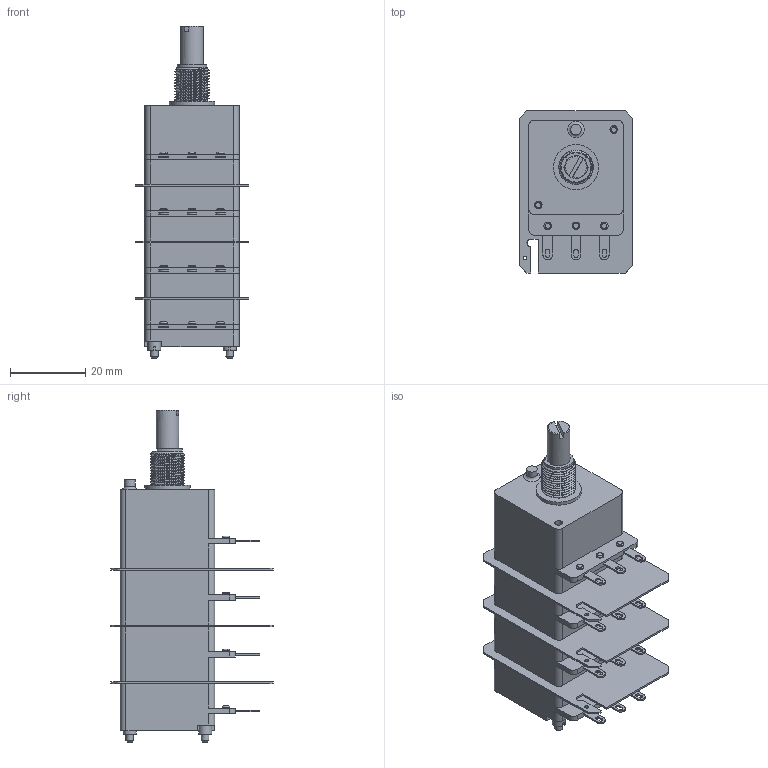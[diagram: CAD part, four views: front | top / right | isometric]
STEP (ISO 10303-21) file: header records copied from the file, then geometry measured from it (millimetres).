
FILE_DESCRIPTION(('FreeCAD Model'),'2;1');
FILE_NAME('Open CASCADE Shape Model','2026-07-14T15:35:10',(''),(''), 'Open CASCADE STEP processor 7.8','FreeCAD','Unknown');
FILE_SCHEMA(('AUTOMOTIVE_DESIGN { 1 0 10303 214 1 1 1 1 }'));
Length unit declared in the file: millimetre
Products named in the file (1): 4CP25XX-S-6S20
Bounding box: 30 x 43 x 88 mm (x, y, z)
Volume: 42174 mm3; surface area: 16168.4 mm2
Topology: 1 solids, 26 shells, 512 faces, 1173 edges, 772 vertices
Faces by surface type: plane 287, cylinder 165, bspline 38, torus 16, cone 6
Full cylindrical faces by diameter (mm): 1 x3, 1.9 x14, 2 x32, 2.2 x20, 2.8 x1, 3.5 x2, 4.5 x4, 5.4 x1, 6 x1, 6.05 x1, 8 x1, 9 x3, 12 x1
Entity records: 21890 total; most frequent: CARTESIAN_POINT 6830, DIRECTION 2447, ORIENTED_EDGE 2344, EDGE_CURVE 1172, AXIS2_PLACEMENT_3D 910, VERTEX_POINT 772, LINE 627, VECTOR 627
